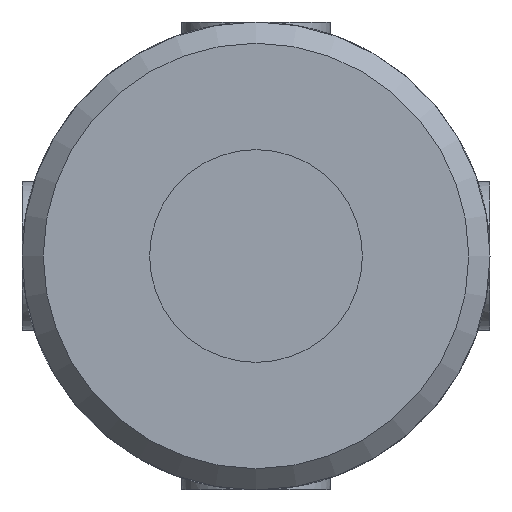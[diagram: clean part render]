
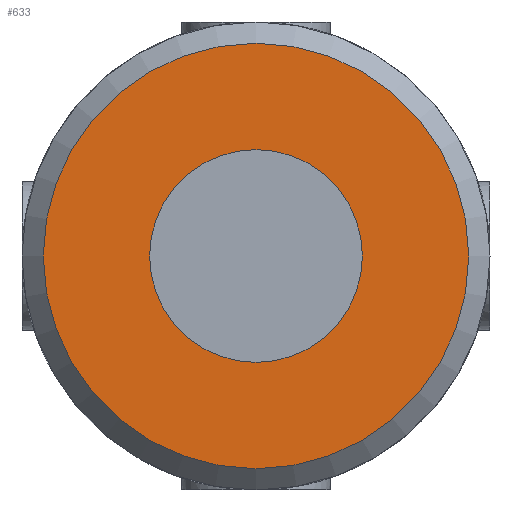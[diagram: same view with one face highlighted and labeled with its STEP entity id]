
A CAD part, front view. The second image highlights one B-rep face of the part: STEP entity #633.
In plain terms, the highlighted planar face has unit normal (0, -1, 0).
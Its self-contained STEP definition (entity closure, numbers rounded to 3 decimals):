
#40=PLANE('',#685);
#141=FACE_BOUND('',#211,.T.);
#160=FACE_OUTER_BOUND('',#210,.T.);
#210=EDGE_LOOP('',(#468));
#211=EDGE_LOOP('',(#469));
#269=CIRCLE('',#680,5.);
#271=CIRCLE('',#683,10.);
#302=VERTEX_POINT('',#957);
#304=VERTEX_POINT('',#962);
#364=EDGE_CURVE('',#302,#302,#269,.T.);
#366=EDGE_CURVE('',#304,#304,#271,.T.);
#468=ORIENTED_EDGE('',*,*,#366,.F.);
#469=ORIENTED_EDGE('',*,*,#364,.T.);
#633=ADVANCED_FACE('',(#160,#141),#40,.F.);
#680=AXIS2_PLACEMENT_3D('',#958,#767,#768);
#683=AXIS2_PLACEMENT_3D('',#963,#773,#774);
#685=AXIS2_PLACEMENT_3D('',#1139,#781,#782);
#767=DIRECTION('center_axis',(0.,1.,0.));
#768=DIRECTION('ref_axis',(-1.,0.,0.));
#773=DIRECTION('center_axis',(0.,1.,0.));
#774=DIRECTION('ref_axis',(1.,0.,0.));
#781=DIRECTION('center_axis',(0.,1.,0.));
#782=DIRECTION('ref_axis',(0.,0.,1.));
#957=CARTESIAN_POINT('',(5.,-29.5,0.));
#958=CARTESIAN_POINT('Origin',(0.,-29.5,0.));
#962=CARTESIAN_POINT('',(-10.,-29.5,0.));
#963=CARTESIAN_POINT('Origin',(0.,-29.5,0.));
#1139=CARTESIAN_POINT('Origin',(0.,-29.5,0.));
